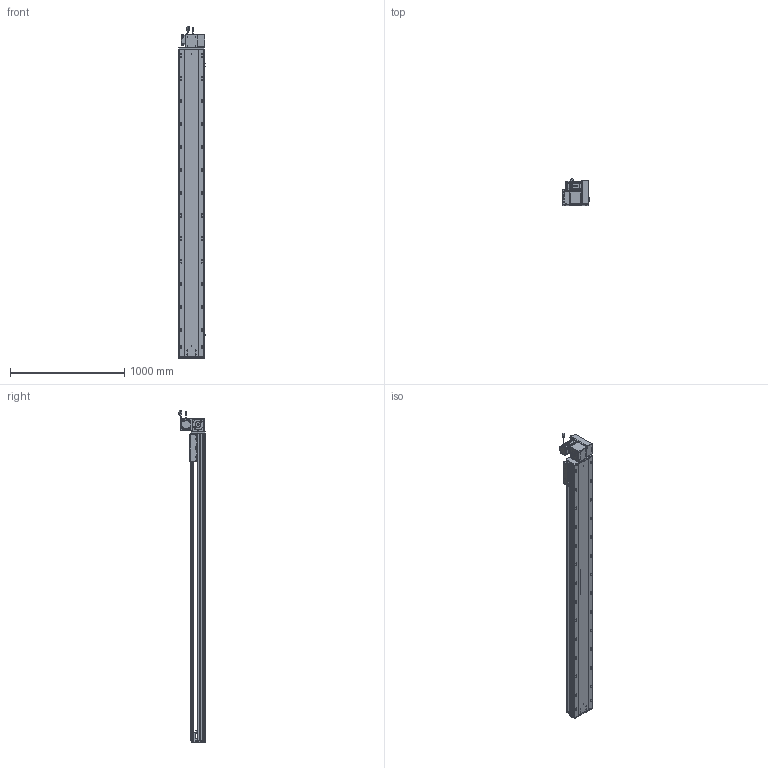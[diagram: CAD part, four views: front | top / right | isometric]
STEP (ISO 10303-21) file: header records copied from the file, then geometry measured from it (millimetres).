
FILE_DESCRIPTION (( 'STEP AP203' ), '1' );
FILE_NAME ('RY220-T-300-UR.SLDASM_2350.step', '2022-07-25T08:45:12', ( '' ), ( '' ), 'SwSTEP 2.0', 'SolidWorks 2016', '' );
FILE_SCHEMA (( 'CONFIG_CONTROL_DESIGN' ));
Length unit declared in the file: millimetre
Products named in the file (14): 滅袉蝶18-15; 怢湛750W_ECMA-CX0807ES; RY220-T-300-UR.SLDASM_2350; RY220-T菁釱-300_2350; RY220翋肮祭謫裔啣; RY220-同步轮副支撑座6304×2; RY220-T-蛌殏萇儂假蚾啣(750W); 110A-T-肮祭謫釱傷裔; 覜茼ん672; RY220-俋离672覜茼んえ; RY220圉猾敕々湍臏賑輸; RY220翋肮祭謫釱; RY220-T-300-奻裔啣_2350; RY220-T-湍謫欶(鍼踢)
Assembly tree (18 placements, depth 2):
  RY220-T-300-UR.SLDASM_2350
    RY220-T菁釱-300_2350
    RY220翋肮祭謫釱
    覜茼ん672  x3
    RY220圉猾敕々湍臏賑輸
    RY220-T-300-奻裔啣_2350
    RY220-俋离672覜茼んえ
    滅袉蝶18-15  x3
    RY220翋肮祭謫裔啣  x2
    110A-T-肮祭謫釱傷裔
    怢湛750W_ECMA-CX0807ES
    RY220-T-湍謫欶(鍼踢)
    RY220-T-蛌殏萇儂假蚾啣(750W)
    RY220-同步轮副支撑座6304×2
Bounding box: 238.7 x 231.74 x 2903.27 mm (x, y, z)
Volume: 20997117.7 mm3; surface area: 6427906.3 mm2
Topology: 19 solids, 19 shells, 2898 faces, 8011 edges, 5034 vertices
Faces by surface type: cylinder 1410, plane 1069, cone 337, bspline 56, sphere 16, torus 10
Entity records: 96579 total; most frequent: CARTESIAN_POINT 27323, ORIENTED_EDGE 14330, DIRECTION 13760, EDGE_CURVE 7165, AXIS2_PLACEMENT_3D 4940, VERTEX_POINT 4658, VECTOR 3880, LINE 3880
